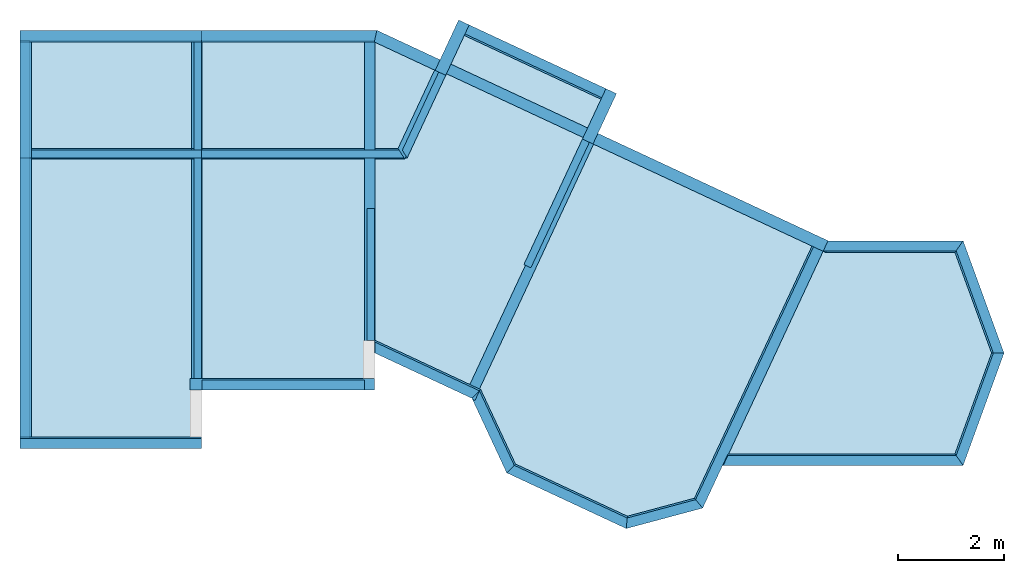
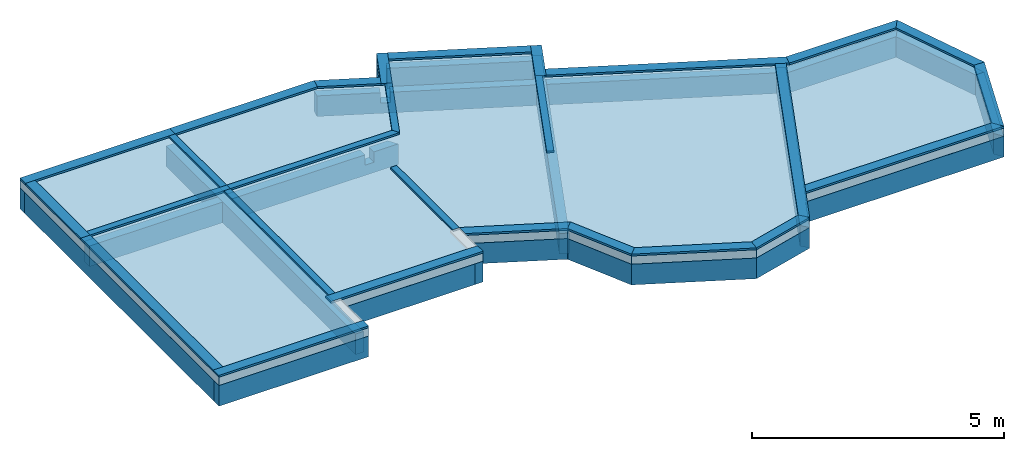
# One storey, part 1 of 2: 47 members, 1 footing.
"""IFC2X3 building model written with IfcOpenShell, lengths in metres."""

from ifc_helpers import new_model, si_unit, direction, frame, origin_with_axes, place, context, subcontext, project, spatial, faceted_brep, material, element, save


model = new_model("IFC2X3")

# Units and contexts
model_context = context("Model", 3, precision=1e-06, world=origin_with_axes(), true_north=direction((0.0, 1.0, 0.0)))
body_context = subcontext(model_context, "Body", "Model", "MODEL_VIEW")
ifc_project = project(units=[si_unit("LENGTHUNIT", "METRE"), si_unit("AREAUNIT", "SQUARE_METRE"), si_unit("VOLUMEUNIT", "CUBIC_METRE"), si_unit("PLANEANGLEUNIT", "RADIAN")], contexts=[model_context])

# Site, building, storey
site_placement = place(None, origin_with_axes())
site = spatial("IfcSite", under=ifc_project, at=site_placement, CompositionType="ELEMENT")
building_placement = place(site_placement, origin_with_axes())
building = spatial("IfcBuilding", under=site, at=building_placement, Name="Building 1", CompositionType="ELEMENT")
storey_placement = place(building_placement, origin_with_axes())
storey = spatial("IfcBuildingStorey", under=building, at=storey_placement, Name="Dalle", CompositionType="ELEMENT", Elevation=0.0)

# Footing
ifc_material_1 = material(Name="Béton")
footing_placement = place(storey_placement, frame((9.2890823, -1.4985603, -0.1), z_axis=(0.0, 0.0, -1.0), x_axis=(0.0, 1.0, 0.0)))
element("IfcFooting", 1, at=footing_placement, inside=storey, material=ifc_material_1, Name="Dalle", PredefinedType="NOTDEFINED", context=body_context, shape_type="Brep", body=[
    faceted_brep([(5.4263402, 8.5061933, 0.1), (3.3083402, 9.2770823, 0.1), (1.1903403, 8.5061934, 0.1), (1.1903403, 3.9704804, 0.1), (0.3860308, 3.5954247, 0.1), (0.0, 2.1547381, 0.1), (1.0513212, -0.0998274, 0.1), (2.4555247, -0.7546183, 0.1), (3.3128146, -2.5930823, 0.1), (2.6113884, -2.5930823, 0.1), (2.6113884, -5.8530823, 0.1), (1.5105603, -5.8530823, 0.1), (1.5105603, -9.2770823, 0.1), (9.3945603, -9.2770823, 0.1), (9.3945603, -2.54794, 0.1), (8.8387572, -1.3560162, 0.1), (9.5893775, -1.0059963, 0.1), (8.2014991, 1.9703185, 0.1), (7.4508788, 1.6202986, 0.1), (5.4263402, 5.9619355, 0.1), (5.4263402, 8.5061933, -0.1), (3.3083402, 9.2770823, -0.1), (5.4263402, 5.9619355, -0.1), (7.4508788, 1.6202986, -0.1), (8.2014991, 1.9703185, -0.1), (9.5893775, -1.0059963, -0.1), (8.8387572, -1.3560162, -0.1), (9.3945603, -2.54794, -0.1), (9.3945603, -9.2770823, -0.1), (1.5105603, -9.2770823, -0.1), (1.5105603, -5.8530823, -0.1), (2.6113884, -5.8530823, -0.1), (2.6113884, -2.5930823, -0.1), (3.3128146, -2.5930823, -0.1), (2.4555247, -0.7546183, -0.1), (1.0513212, -0.0998274, -0.1), (0.0, 2.1547381, -0.1), (0.3860308, 3.5954247, -0.1), (1.1903403, 3.9704804, -0.1), (1.1903403, 8.5061934, -0.1)], [[[0, 1, 2, 3, 4, 5, 6, 7, 8, 9, 10, 11, 12, 13, 14, 15, 16, 17, 18, 19]], [[20, 21, 1, 0]], [[20, 22, 23, 24, 25, 26, 27, 28, 29, 30, 31, 32, 33, 34, 35, 36, 37, 38, 39, 21]], [[22, 20, 0, 19]], [[23, 22, 19, 18]], [[24, 23, 18, 17]], [[24, 17, 16, 25]], [[21, 39, 2, 1]], [[39, 38, 3, 2]], [[37, 36, 5, 4]], [[38, 37, 4, 3]], [[6, 5, 36, 35]], [[7, 6, 35, 34]], [[8, 7, 34, 33]], [[9, 8, 33, 32]], [[30, 29, 12, 11]], [[31, 30, 11, 10]], [[32, 31, 10, 9]], [[29, 28, 13, 12]], [[14, 13, 28, 27]], [[26, 25, 16, 15]], [[27, 26, 15, 14]]]),
])

# Members
ifc_material_2 = material(Name="NH II")
member_1_placement = place(storey_placement, frame((17.7069445, 3.89563, -0.45), z_axis=(0.0, 0.0, 1.0), x_axis=(0.3420201, -0.9396926, 0.0)))
element("IfcMember", 2, at=member_1_placement, inside=storey, material=ifc_material_2, Name="Enrayure", context=body_context, shape_type="Brep", body=[
    faceted_brep([(0.0, 0.094, 0.25), (2.2539286, 0.094, 0.25), (2.2539286, 0.094, -0.25), (0.0, 0.094, -0.25), (0.131639, -0.094, -0.25), (0.131639, -0.094, 0.25), (2.1855021, -0.094, -0.25), (2.1855021, -0.094, 0.25)], [[[0, 1, 2, 3]], [[0, 3, 4, 5]], [[3, 2, 6, 4]], [[1, 0, 5, 7]], [[5, 4, 6, 7]], [[2, 1, 7, 6]]]),
])
ifc_material_3 = material(Name="Epicéa C24 Traité")
member_2_placement = place(storey_placement, frame((11.4153503, -1.3923085, 0.0225), z_axis=(0.258819, -0.9659258, 0.0), x_axis=(0.9659258, 0.258819, 0.0)))
element("IfcMember", 3, at=member_2_placement, inside=storey, material=ifc_material_3, Name="Lisse basse traitée", context=body_context, shape_type="Brep", body=[
    faceted_brep([(0.0, 0.0225, 0.11), (0.0800735, 0.0225, -0.11), (0.0800735, -0.0225, -0.11), (0.0, -0.0225, 0.11), (1.3889208, 0.0225, -0.11), (1.3889208, -0.0225, -0.11), (1.4915085, 0.0225, 0.11), (1.4915085, -0.0225, 0.11)], [[[0, 1, 2, 3]], [[2, 1, 4, 5]], [[1, 0, 6, 4]], [[6, 7, 5, 4]], [[3, 2, 5, 7]], [[6, 0, 3, 7]]]),
])
member_3_placement = place(storey_placement, frame((11.159707, 6.7494267, 0.0225), z_axis=(0.9063078, -0.4226183, 0.0), x_axis=(-0.4226183, -0.9063078, 0.0)))
element("IfcMember", 4, at=member_3_placement, inside=storey, material=ifc_material_3, Name="Lisse basse traitée", context=body_context, shape_type="Brep", body=[
    faceted_brep([(0.0, -0.0225, -0.11), (0.0, -0.0225, 0.11), (0.0, 0.0225, 0.11), (0.0, 0.0225, -0.11), (1.0482178, 0.0225, 0.11), (1.0482178, -0.0225, 0.11), (1.0482178, -0.0225, -0.11), (1.0482178, 0.0225, -0.11)], [[[0, 1, 2, 3]], [[4, 5, 6, 7]], [[5, 1, 0, 6]], [[6, 0, 3, 7]], [[7, 3, 2, 4]], [[1, 5, 4, 2]]]),
])
member_4_placement = place(storey_placement, frame((6.6078191, 1.1128254, -0.45), z_axis=(0.0, 0.0, 1.0), x_axis=(2.66e-05, 1.0, 0.0)))
element("IfcMember", 5, at=member_4_placement, inside=storey, material=ifc_material_2, Name="Enrayure", context=body_context, shape_type="Brep", body=[
    faceted_brep([(5e-06, -0.0881808, -0.25), (0.7014311, -0.0881622, -0.25), (0.7014311, -0.0881622, 0.25), (5e-06, -0.0881808, 0.25), (0.6959114, -0.1, -0.25), (0.6959114, -0.1, 0.25), (6.5911992, -0.1, 0.25), (6.5951746, -0.0914743, 0.25), (6.5951746, 0.1, 0.25), (0.0, 0.1, 0.25), (0.0, 0.1, -0.25), (4.3558948, -0.1, -0.25), (4.3558948, -0.1, 0.0), (4.5558948, -0.1, 0.0), (4.5558948, -0.1, -0.25), (6.5911992, -0.1, -0.25), (4.3558895, 0.1, -0.25), (6.5951746, -0.0914743, -0.25), (6.5951746, 0.1, -0.25), (4.5558895, 0.1, -0.25), (4.5558895, 0.1, 0.0), (4.3558895, 0.1, 0.0)], [[[0, 1, 2, 3]], [[1, 4, 5, 2]], [[3, 2, 5, 6, 7, 8, 9]], [[3, 9, 10, 0]], [[5, 4, 11, 12, 13, 14, 15, 6]], [[1, 0, 10, 16, 11, 4]], [[15, 17, 7, 6]], [[7, 17, 18, 8]], [[17, 15, 14, 19, 18]], [[10, 9, 8, 18, 19, 20, 21, 16]], [[21, 12, 11, 16]], [[13, 20, 19, 14]], [[21, 20, 13, 12]]]),
])
member_5_placement = place(storey_placement, frame((8.6336698, 1.0078012, -0.45), z_axis=(0.0, 0.0, 1.0), x_axis=(-0.9063078, 0.4226183, 0.0)))
element("IfcMember", 6, at=member_5_placement, inside=storey, material=ifc_material_2, Name="Enrayure", context=body_context, shape_type="Brep", body=[
    faceted_brep([(2.0838856, 0.088, -0.25), (0.0684264, 0.088, -0.25), (0.0684264, 0.088, 0.25), (2.0838856, 0.088, 0.25), (0.0541254, 0.1, -0.25), (0.0541254, 0.1, 0.25), (2.1715454, -0.1, 0.25), (2.1715454, -0.1, -0.25), (0.0, 0.1, 0.25), (0.0, -0.1, 0.25), (0.0, 0.1, -0.25), (0.0, -0.1, -0.25)], [[[0, 1, 2, 3]], [[1, 4, 5, 2]], [[0, 3, 6, 7]], [[3, 2, 5, 8, 9, 6]], [[5, 4, 10, 8]], [[1, 0, 7, 11, 10, 4]], [[8, 10, 11, 9]], [[6, 9, 11, 7]]]),
])
member_6_placement = place(storey_placement, frame((8.4137458, 7.926172, -0.45), z_axis=(0.0, 0.0, 1.0), x_axis=(0.9063078, -0.4226183, 0.0)))
element("IfcMember", 7, at=member_6_placement, inside=storey, material=ifc_material_2, Name="Enrayure", context=body_context, shape_type="Brep", body=[
    faceted_brep([(0.0, 0.094, -0.25), (0.0, 0.094, 0.25), (2.908, 0.094, 0.25), (2.908, 0.094, -0.25), (0.0, -0.094, 0.25), (2.908, -0.094, 0.25), (0.0, -0.094, -0.25), (2.908, -0.094, -0.25)], [[[0, 1, 2, 3]], [[2, 1, 4, 5]], [[1, 0, 6, 4]], [[3, 2, 5, 7]], [[0, 3, 7, 6]], [[5, 4, 6, 7]]]),
])
member_7_placement = place(storey_placement, frame((15.1604166, 3.8343421, -0.45), z_axis=(0.0, 0.0, 1.0), x_axis=(1.0, 0.0, 0.0)))
element("IfcMember", 8, at=member_7_placement, inside=storey, material=ifc_material_2, Name="Enrayure", context=body_context, shape_type="Brep", body=[
    faceted_brep([(2.634859, 0.0934378, -0.25), (0.0906012, 0.0934378, -0.25), (0.0906012, 0.0934378, 0.25), (2.634859, 0.0934378, 0.25), (0.0881901, 0.0945622, -0.25), (0.0881901, 0.0945622, 0.25), (2.50322, -0.0945622, 0.25), (2.50322, -0.0945622, -0.25), (0.0, -0.0945622, 0.25), (0.0, -0.0945622, -0.25)], [[[0, 1, 2, 3]], [[1, 4, 5, 2]], [[0, 3, 6, 7]], [[3, 2, 5, 8, 6]], [[5, 4, 9, 8]], [[1, 0, 7, 9, 4]], [[7, 6, 8, 9]]]),
])
member_8_placement = place(storey_placement, frame((0.106, 0.2, -0.45), z_axis=(0.0, 0.0, 1.0), x_axis=(0.0, 1.0, 0.0)))
element("IfcMember", 9, at=member_8_placement, inside=storey, material=ifc_material_2, Name="Enrayure", context=body_context, shape_type="Brep", body=[
    faceted_brep([(0.0, 0.094, -0.25), (0.0, 0.094, 0.25), (7.508, 0.094, 0.25), (7.508, 0.094, -0.25), (7.508, -0.094, 0.25), (7.508, -0.094, -0.25), (0.0, -0.094, 0.25), (0.0, -0.094, -0.25)], [[[0, 1, 2, 3]], [[3, 2, 4, 5]], [[2, 1, 6, 4]], [[1, 0, 7, 6]], [[0, 3, 5, 7]], [[4, 6, 7, 5]]]),
])
member_9_placement = place(storey_placement, frame((6.696, 1.2228281, 0.0225), z_axis=(0.0, -1.0, 0.0), x_axis=(-1.0, 0.0, 0.0)))
element("IfcMember", 10, at=member_9_placement, inside=storey, material=ifc_material_3, Name="Lisse basse traitée", context=body_context, shape_type="Brep", body=[
    faceted_brep([(0.0, -0.0225, 0.11), (3.48, -0.0225, 0.11), (3.48, 0.0225, 0.11), (0.0, 0.0225, 0.11), (0.0, 0.0225, -0.11), (0.0, -0.0225, -0.11), (3.48, 0.0225, -0.11), (3.48, -0.0225, -0.11)], [[[0, 1, 2, 3]], [[4, 5, 0, 3]], [[3, 2, 6, 4]], [[4, 6, 7, 5]], [[5, 7, 1, 0]], [[1, 7, 6, 2]]]),
])
member_10_placement = place(storey_placement, frame((15.248733, 3.8074738, 0.0225), z_axis=(0.4226183, 0.9063078, 0.0), x_axis=(-0.9063078, 0.4226183, 0.0)))
element("IfcMember", 11, at=member_10_placement, inside=storey, material=ifc_material_3, Name="Lisse basse traitée", context=body_context, shape_type="Brep", body=[
    faceted_brep([(0.0487728, -0.0225, 0.11), (0.0487728, 0.0225, 0.11), (0.0, 0.0225, -0.11), (0.0, -0.0225, -0.11), (4.8392391, 0.0225, 0.11), (4.8392391, 0.0225, -0.11), (4.8392391, -0.0225, 0.11), (4.8392391, -0.0225, -0.11)], [[[0, 1, 2, 3]], [[2, 1, 4, 5]], [[1, 0, 6, 4]], [[7, 5, 4, 6]], [[0, 3, 7, 6]], [[3, 2, 5, 7]]]),
])
member_11_placement = place(storey_placement, frame((8.3827799, 8.0443291, 0.0225), z_axis=(0.9063078, -0.4226183, 0.0), x_axis=(-0.4226183, -0.9063078, 0.0)))
element("IfcMember", 12, at=member_11_placement, inside=storey, material=ifc_material_3, Name="Lisse basse traitée", context=body_context, shape_type="Brep", body=[
    faceted_brep([(0.0, -0.0225, -0.11), (0.0, -0.0225, 0.11), (0.0, 0.0225, 0.11), (0.0, 0.0225, -0.11), (1.0482178, 0.0225, 0.11), (1.0482178, -0.0225, 0.11), (1.0482178, -0.0225, -0.11), (1.0482178, 0.0225, -0.11)], [[[0, 1, 2, 3]], [[4, 5, 6, 7]], [[5, 1, 0, 6]], [[6, 0, 3, 7]], [[7, 3, 2, 4]], [[1, 5, 4, 2]]]),
])
member_12_placement = place(storey_placement, frame((12.860178, -1.0217325, -0.45), z_axis=(0.0, 0.0, 1.0), x_axis=(-0.9659258, -0.258819, 0.0)))
element("IfcMember", 13, at=member_12_placement, inside=storey, material=ifc_material_2, Name="Enrayure", context=body_context, shape_type="Brep", body=[
    faceted_brep([(1.4915085, 0.094, -0.25), (0.0, 0.094, -0.25), (0.0, 0.094, 0.25), (1.4915085, 0.094, 0.25), (1.4230821, -0.094, 0.25), (1.4230821, -0.094, -0.25), (0.0876658, -0.094, 0.25), (0.0876658, -0.094, -0.25)], [[[0, 1, 2, 3]], [[0, 3, 4, 5]], [[3, 2, 6, 4]], [[2, 1, 7, 6]], [[6, 7, 5, 4]], [[1, 0, 5, 7]]]),
])
member_13_placement = place(storey_placement, frame((6.7039519, 7.8162449, -0.45), z_axis=(0.0, 0.0, 1.0), x_axis=(0.9063078, -0.4226183, 0.0)))
element("IfcMember", 14, at=member_13_placement, inside=storey, material=ifc_material_2, Name="Enrayure", context=body_context, shape_type="Brep", body=[
    faceted_brep([(9.1869483, 0.088, -0.25), (4.5991424, 0.088, -0.25), (4.5991424, 0.088, 0.0), (4.6111424, 0.088, 0.0), (4.6111424, 0.088, 0.25), (9.1869483, 0.088, 0.25), (4.5991424, 0.1, -0.25), (4.5991424, 0.1, 0.0), (4.6111424, -0.1, 0.25), (9.1869483, -0.1, 0.25), (4.6111424, -0.1, 0.0), (4.4111424, 0.1, 0.0), (4.4111424, -0.1, 0.0), (1.3031424, 0.088, 0.0), (1.3151423, 0.088, 0.0), (1.3151423, 0.088, -0.25), (0.0, 0.088, -0.25), (0.0, 0.088, 0.25), (1.3031424, 0.088, 0.25), (1.3151423, 0.1, 0.0), (1.3151423, 0.1, -0.25), (1.3031424, -0.1, 0.0), (1.5031424, -0.1, 0.0), (1.5031424, 0.1, 0.0), (1.3031424, -0.1, 0.25), (0.0416786, -0.1, 0.25), (0.0416786, -0.1, -0.25), (1.5031424, 0.1, 0.25), (4.4111424, 0.1, 0.25), (9.1869483, -0.1, -0.25), (4.4111424, -0.1, 0.25), (1.5031424, -0.1, 0.25)], [[[0, 1, 2, 3, 4, 5]], [[1, 6, 7, 2]], [[5, 4, 8, 9]], [[4, 3, 10, 8]], [[3, 2, 7, 11, 12, 10]], [[13, 14, 15, 16, 17, 18]], [[14, 19, 20, 15]], [[19, 14, 13, 21, 22, 23]], [[13, 18, 24, 21]], [[18, 17, 25, 24]], [[17, 16, 26, 25]], [[7, 6, 20, 19, 23, 27, 28, 11]], [[25, 26, 29, 9, 8, 10, 12, 30, 31, 22, 21, 24]], [[1, 0, 29, 26, 16, 15, 20, 6]], [[27, 31, 30, 28]], [[23, 22, 31, 27]], [[12, 11, 28, 30]], [[0, 5, 9, 29]]]),
])
member_14_placement = place(storey_placement, frame((7.1771853, 5.5109794, -0.45), z_axis=(0.0, 0.0, 1.0), x_axis=(0.4226182, 0.9063078, 0.0)))
element("IfcMember", 15, at=member_14_placement, inside=storey, material=ifc_material_2, Name="Enrayure", context=body_context, shape_type="Brep", body=[
    faceted_brep([(1.989283, 0.088, 0.0), (1.977283, 0.088, 0.0), (1.977283, 0.088, 0.25), (2.8055009, 0.088, 0.25), (2.8055009, 0.088, -0.25), (1.989283, 0.088, -0.25), (1.977283, 0.1, 0.0), (1.977283, 0.1, 0.25), (1.989283, -0.1, 0.0), (1.789283, -0.1, 0.0), (1.789283, 0.1, 0.0), (1.989283, -0.1, -0.25), (2.8055009, -0.1, -0.25), (2.8055009, -0.1, 0.25), (0.1274141, 0.1, 0.25), (0.0, -0.1, 0.25), (1.789283, 0.1, -0.25), (0.1274141, 0.1, -0.25), (0.0, -0.1, -0.25), (1.789283, -0.1, -0.25)], [[[0, 1, 2, 3, 4, 5]], [[1, 6, 7, 2]], [[6, 1, 0, 8, 9, 10]], [[0, 5, 11, 8]], [[5, 4, 12, 11]], [[4, 3, 13, 12]], [[2, 7, 14, 15, 13, 3]], [[7, 6, 10, 16, 17, 14]], [[15, 14, 17, 18]], [[12, 13, 15, 18, 19, 9, 8, 11]], [[18, 17, 16, 19]], [[10, 9, 19, 16]]]),
])
member_15_placement = place(storey_placement, frame((0.012, 7.802, -0.45), z_axis=(0.0, 0.0, 1.0), x_axis=(1.0, 0.0, 0.0)))
element("IfcMember", 16, at=member_15_placement, inside=storey, material=ifc_material_2, Name="Enrayure", context=body_context, shape_type="Brep", body=[
    faceted_brep([(0.0, -0.094, 0.25), (0.0, 0.094, 0.25), (0.0, 0.094, -0.25), (0.0, -0.094, -0.25), (6.6874637, -0.094, -0.25), (6.6874637, -0.094, 0.25), (6.7291423, 0.094, -0.25), (6.7291423, 0.094, 0.25)], [[[0, 1, 2, 3]], [[0, 3, 4, 5]], [[3, 2, 6, 4]], [[6, 2, 1, 7]], [[6, 7, 5, 4]], [[1, 0, 5, 7]]]),
])
member_16_placement = place(storey_placement, frame((0.012, 0.122, 0.0225), z_axis=(0.0, 1.0, 0.0), x_axis=(1.0, 0.0, 0.0)))
element("IfcMember", 17, at=member_16_placement, inside=storey, material=ifc_material_3, Name="Lisse basse traitée", context=body_context, shape_type="Brep", body=[
    faceted_brep([(3.424, -0.0225, -0.11), (0.0, -0.0225, -0.11), (0.0, 0.0225, -0.11), (3.424, 0.0225, -0.11), (3.424, 0.0225, 0.11), (3.424, -0.0225, 0.11), (0.0, -0.0225, 0.11), (0.0, 0.0225, 0.11)], [[[0, 1, 2, 3]], [[4, 5, 0, 3]], [[6, 7, 2, 1]], [[1, 0, 5, 6]], [[7, 4, 3, 2]], [[6, 5, 4, 7]]]),
])
member_17_placement = place(storey_placement, frame((18.4778335, 1.8419298, -0.45), z_axis=(0.0, 0.0, 1.0), x_axis=(-0.3420201, -0.9396926, 0.0)))
element("IfcMember", 18, at=member_17_placement, inside=storey, material=ifc_material_2, Name="Enrayure", context=body_context, shape_type="Brep", body=[
    faceted_brep([(2.2539285, 0.094, -0.25), (0.0, 0.094, -0.25), (0.0, 0.094, 0.25), (2.2539285, 0.094, 0.25), (2.1222893, -0.094, 0.25), (2.1222893, -0.094, -0.25), (0.0684264, -0.094, 0.25), (0.0684264, -0.094, -0.25)], [[[0, 1, 2, 3]], [[0, 3, 4, 5]], [[3, 2, 6, 4]], [[2, 1, 7, 6]], [[6, 7, 5, 4]], [[1, 0, 5, 7]]]),
])
member_18_placement = place(storey_placement, frame((8.5715715, 1.1470959, -0.45), z_axis=(0.0, 0.0, 1.0), x_axis=(0.4226183, 0.9063078, 0.0)))
element("IfcMember", 19, at=member_18_placement, inside=storey, material=ifc_material_2, Name="Enrayure", context=body_context, shape_type="Brep", body=[
    faceted_brep([(5.3430115, -0.1, 0.0), (5.3430115, -0.088, 0.0), (5.3430115, -0.088, 0.25), (5.3430115, -0.1, 0.25), (5.3550115, -0.088, 0.0), (5.3550115, -0.088, -0.25), (6.1712294, -0.088, -0.25), (6.1712294, -0.088, 0.25), (0.0, -0.1, 0.25), (0.0, -0.1, -0.25), (5.1550115, -0.1, -0.25), (5.1550115, -0.1, 0.0), (6.1712294, 0.1, 0.25), (0.0, 0.1, 0.25), (6.1712294, 0.1, -0.25), (5.3550115, 0.1, -0.25), (5.3550115, 0.1, 0.0), (5.1550115, 0.1, 0.0), (5.1550115, 0.1, -0.25), (0.0, 0.1, -0.25)], [[[0, 1, 2, 3]], [[1, 4, 5, 6, 7, 2]], [[0, 3, 8, 9, 10, 11]], [[3, 2, 7, 12, 13, 8]], [[7, 6, 14, 12]], [[12, 14, 15, 16, 17, 18, 19, 13]], [[6, 5, 15, 14]], [[18, 10, 9, 19]], [[5, 4, 16, 15]], [[17, 11, 10, 18]], [[1, 0, 11, 17, 16, 4]], [[13, 19, 9, 8]]]),
])
member_19_placement = place(storey_placement, frame((9.2744478, -0.407513, -0.45), z_axis=(0.0, 0.0, 1.0), x_axis=(-0.4226183, 0.9063078, 0.0)))
element("IfcMember", 20, at=member_19_placement, inside=storey, material=ifc_material_2, Name="Enrayure", context=body_context, shape_type="Brep", body=[
    faceted_brep([(1.5306985, 0.094, -0.25), (0.0, 0.094, -0.25), (0.0, 0.094, 0.25), (1.5306985, 0.094, 0.25), (1.489236, 0.0592089, 0.25), (1.489236, 0.0592089, -0.25), (0.0684264, -0.094, 0.25), (1.6177936, -0.094, 0.25), (0.0684264, -0.094, -0.25), (1.6177936, -0.094, -0.25)], [[[0, 1, 2, 3]], [[0, 3, 4, 5]], [[3, 2, 6, 7, 4]], [[2, 1, 8, 6]], [[6, 8, 9, 7]], [[1, 0, 5, 9, 8]], [[5, 4, 7, 9]]]),
])
member_20_placement = place(storey_placement, frame((0.122, 7.676, 0.0225), z_axis=(1.0, 0.0, 0.0), x_axis=(0.0, -1.0, 0.0)))
element("IfcMember", 21, at=member_20_placement, inside=storey, material=ifc_material_3, Name="Lisse basse traitée", context=body_context, shape_type="Brep", body=[
    faceted_brep([(2.1857824, -0.0225, -0.11), (2.1857824, -0.0225, 0.11), (0.0, -0.0225, 0.11), (0.0, -0.0225, -0.11), (2.1857824, 0.0225, 0.11), (0.0, 0.0225, 0.11), (2.1857824, 0.0225, -0.11), (0.0, 0.0225, -0.11)], [[[0, 1, 2, 3]], [[1, 4, 5, 2]], [[4, 6, 7, 5]], [[6, 0, 3, 7]], [[0, 6, 4, 1]], [[3, 2, 5, 7]]]),
])
member_21_placement = place(storey_placement, frame((11.4835465, -1.4133674, -0.45), z_axis=(0.0, 0.0, 1.0), x_axis=(-0.9063078, 0.4226183, 0.0)))
element("IfcMember", 22, at=member_21_placement, inside=storey, material=ifc_material_2, Name="Enrayure", context=body_context, shape_type="Brep", body=[
    faceted_brep([(0.0, 0.094, 0.25), (2.4876379, 0.094, 0.25), (2.4876379, 0.094, -0.25), (0.0, 0.094, -0.25), (0.0684264, -0.094, 0.25), (2.4192114, -0.094, 0.25), (0.0684264, -0.094, -0.25), (2.4192114, -0.094, -0.25)], [[[0, 1, 2, 3]], [[1, 0, 4, 5]], [[0, 3, 6, 4]], [[4, 6, 7, 5]], [[3, 2, 7, 6]], [[2, 1, 5, 7]]]),
])
member_22_placement = place(storey_placement, frame((12.8047519, -1.0753391, -0.45), z_axis=(0.0, 0.0, 1.0), x_axis=(0.4226183, 0.9063078, 0.0)))
element("IfcMember", 23, at=member_22_placement, inside=storey, material=ifc_material_2, Name="Enrayure", context=body_context, shape_type="Brep", body=[
    faceted_brep([(5.5682024, -0.1, 0.25), (5.5682024, -0.1, -0.25), (5.5682024, 0.1, -0.25), (5.5682024, 0.1, 0.25), (0.0876658, 0.1, -0.25), (0.0876658, 0.1, 0.25), (0.893053, -0.1, -0.25), (0.8874573, -0.088, -0.25), (0.0, -0.088, -0.25), (0.893053, -0.1, 0.25), (0.8874573, -0.088, 0.25), (0.0, -0.088, 0.25)], [[[0, 1, 2, 3]], [[3, 2, 4, 5]], [[2, 1, 6, 7, 8, 4]], [[9, 10, 7, 6]], [[10, 11, 8, 7]], [[1, 0, 9, 6]], [[8, 11, 5, 4]], [[0, 3, 5, 11, 10, 9]]]),
])
member_23_placement = place(storey_placement, frame((17.7952758, -0.2142198, -0.45), z_axis=(0.0, 0.0, 1.0), x_axis=(-1.0, -1e-07, 0.0)))
element("IfcMember", 24, at=member_23_placement, inside=storey, material=ifc_material_2, Name="Enrayure", context=body_context, shape_type="Brep", body=[
    faceted_brep([(0.0, 0.094, 0.25), (4.5224726, 0.0939999, 0.25), (4.5224726, 0.0939999, -0.25), (0.0, 0.094, -0.25), (0.1316391, -0.0939999, 0.25), (4.4348068, -0.0939999, 0.25), (0.1316391, -0.0939999, -0.25), (4.4348068, -0.0939999, -0.25)], [[[0, 1, 2, 3]], [[1, 0, 4, 5]], [[0, 3, 6, 4]], [[4, 6, 7, 5]], [[3, 2, 7, 6]], [[2, 1, 5, 7]]]),
])
member_24_placement = place(storey_placement, frame((3.436, 0.106, -0.45), z_axis=(0.0, 0.0, 1.0), x_axis=(-1.0, 0.0, 0.0)))
element("IfcMember", 25, at=member_24_placement, inside=storey, material=ifc_material_2, Name="Enrayure", context=body_context, shape_type="Brep", body=[
    faceted_brep([(0.0, -0.094, 0.25), (0.0, 0.094, 0.25), (0.0, 0.094, -0.25), (0.0, -0.094, -0.25), (3.424, 0.094, 0.25), (3.424, 0.094, -0.25), (3.424, -0.094, -0.25), (3.424, -0.094, 0.25)], [[[0, 1, 2, 3]], [[1, 4, 5, 2]], [[0, 3, 6, 7]], [[3, 2, 5, 6]], [[4, 7, 6, 5]], [[1, 0, 7, 4]]]),
])
member_25_placement = place(storey_placement, frame((3.348, 0.2, -0.45), z_axis=(0.0, 0.0, 1.0), x_axis=(0.0, 1.0, 0.0)))
element("IfcMember", 26, at=member_25_placement, inside=storey, material=ifc_material_2, Name="Enrayure", context=body_context, shape_type="Brep", body=[
    faceted_brep([(0.9128281, -0.1, 0.25), (0.9128281, -0.088, 0.25), (0.9128281, -0.088, -0.25), (0.9128281, -0.1, -0.25), (0.0, -0.088, 0.25), (0.0, -0.088, -0.25), (5.2687176, -0.1, -0.25), (5.2687176, -0.1, 0.0), (5.4687176, -0.1, 0.0), (5.4687176, -0.1, -0.25), (7.508, -0.1, -0.25), (7.508, -0.1, 0.25), (0.0, 0.1, -0.25), (5.2687176, 0.1, -0.25), (5.4687176, 0.1, -0.25), (7.508, 0.1, -0.25), (5.4687176, 0.1, 0.0), (5.2687176, 0.1, 0.0), (0.0, 0.1, 0.25), (7.508, 0.1, 0.25)], [[[0, 1, 2, 3]], [[1, 4, 5, 2]], [[0, 3, 6, 7, 8, 9, 10, 11]], [[3, 2, 5, 12, 13, 6]], [[9, 14, 15, 10]], [[14, 16, 17, 13, 12, 18, 19, 15]], [[8, 16, 14, 9]], [[17, 7, 6, 13]], [[7, 17, 16, 8]], [[15, 19, 11, 10]], [[5, 4, 18, 12]], [[1, 0, 11, 19, 18, 4]]]),
])
member_26_placement = place(storey_placement, frame((6.5078215, 1.2068281, -0.45), z_axis=(0.0, 0.0, 1.0), x_axis=(-1.0, 0.0, 0.0)))
element("IfcMember", 27, at=member_26_placement, inside=storey, material=ifc_material_2, Name="Enrayure", context=body_context, shape_type="Brep", body=[
    faceted_brep([(0.0, 0.094, -0.25), (0.0, 0.094, 0.25), (3.0598215, 0.094, 0.25), (3.0598215, 0.094, -0.25), (3.0598215, -0.094, 0.25), (3.0598215, -0.094, -0.25), (0.0, -0.094, 0.25), (0.0, -0.094, -0.25)], [[[0, 1, 2, 3]], [[3, 2, 4, 5]], [[2, 1, 6, 4]], [[1, 0, 7, 6]], [[0, 3, 5, 7]], [[4, 6, 7, 5]]]),
])
member_27_placement = place(storey_placement, frame((17.6919095, -0.2705978, 0.0225), z_axis=(0.9396926, -0.3420201, 0.0), x_axis=(0.3420201, 0.9396926, 0.0)))
element("IfcMember", 28, at=member_27_placement, inside=storey, material=ifc_material_3, Name="Lisse basse traitée", context=body_context, shape_type="Brep", body=[
    faceted_brep([(0.1540457, -0.0225, -0.11), (0.0, -0.0225, 0.11), (0.0, 0.0225, 0.11), (0.1540457, 0.0225, -0.11), (2.173855, -0.0225, -0.11), (2.2539284, -0.0225, 0.11), (2.2539284, 0.0225, 0.11), (2.173855, 0.0225, -0.11)], [[[0, 1, 2, 3]], [[1, 0, 4, 5]], [[6, 5, 4, 7]], [[6, 2, 1, 5]], [[3, 2, 6, 7]], [[0, 3, 7, 4]]]),
])
member_28_placement = place(storey_placement, frame((3.3635, 5.6352176, 0.0225), z_axis=(-1.0, 0.0, 0.0), x_axis=(0.0, 1.0, 0.0)))
element("IfcMember", 29, at=member_28_placement, inside=storey, material=ifc_material_3, Name="Lisse basse traitée", context=body_context, shape_type="Brep", body=[
    faceted_brep([(0.0, -0.0225, -0.0725), (0.0, -0.0225, 0.0725), (0.0, 0.0225, 0.0725), (0.0, 0.0225, -0.0725), (2.0407824, -0.0225, 0.0725), (2.0407824, 0.0225, 0.0725), (2.0407824, -0.0225, -0.0725), (2.0407824, 0.0225, -0.0725)], [[[0, 1, 2, 3]], [[2, 1, 4, 5]], [[1, 0, 6, 4]], [[0, 3, 7, 6]], [[5, 4, 6, 7]], [[3, 2, 5, 7]]]),
])
member_29_placement = place(storey_placement, frame((6.6235, 2.0514744, 0.0225), z_axis=(-1.0, 0.0, 0.0), x_axis=(0.0, 1.0, 0.0)))
element("IfcMember", 30, at=member_29_placement, inside=storey, material=ifc_material_3, Name="Lisse basse traitée", context=body_context, shape_type="Brep", body=[
    faceted_brep([(0.0, 0.0225, -0.0725), (2.4835256, 0.0225, -0.0725), (2.4835256, -0.0225, -0.0725), (0.0, -0.0225, -0.0725), (2.4835256, 0.0225, 0.0725), (2.4835256, -0.0225, 0.0725), (0.0, -0.0225, 0.0725), (0.0, 0.0225, 0.0725)], [[[0, 1, 2, 3]], [[4, 5, 2, 1]], [[5, 6, 3, 2]], [[7, 4, 1, 0]], [[6, 5, 4, 7]], [[6, 7, 0, 3]]]),
])
member_30_placement = place(storey_placement, frame((6.7411423, 7.786, 0.0225), z_axis=(0.0, 1.0, 0.0), x_axis=(-1.0, 0.0, 0.0)))
element("IfcMember", 31, at=member_30_placement, inside=storey, material=ifc_material_3, Name="Lisse basse traitée", context=body_context, shape_type="Brep", body=[
    faceted_brep([(3.3051424, 0.0225, -0.11), (3.3051424, -0.0225, -0.11), (0.0487728, -0.0225, -0.11), (0.0487728, 0.0225, -0.11), (3.3051424, -0.0225, 0.11), (0.0, -0.0225, 0.11), (3.3051424, 0.0225, 0.11), (0.0, 0.0225, 0.11)], [[[0, 1, 2, 3]], [[1, 4, 5, 2]], [[4, 6, 7, 5]], [[6, 0, 3, 7]], [[0, 6, 4, 1]], [[5, 7, 3, 2]]]),
])
member_31_placement = place(storey_placement, frame((3.436, 5.5627176, 0.0225), z_axis=(0.0, -1.0, 0.0), x_axis=(-1.0, 0.0, 0.0)))
element("IfcMember", 32, at=member_31_placement, inside=storey, material=ifc_material_3, Name="Lisse basse traitée", context=body_context, shape_type="Brep", body=[
    faceted_brep([(0.0, 0.0225, -0.0725), (0.0, 0.0225, 0.0725), (3.204, 0.0225, 0.0725), (3.204, 0.0225, -0.0725), (0.0, -0.0225, 0.0725), (3.204, -0.0225, 0.0725), (0.0, -0.0225, -0.0725), (3.204, -0.0225, -0.0725)], [[[0, 1, 2, 3]], [[1, 4, 5, 2]], [[4, 6, 7, 5]], [[6, 0, 3, 7]], [[0, 6, 4, 1]], [[3, 2, 5, 7]]]),
])
member_32_placement = place(storey_placement, frame((7.9737704, 7.0784729, 0.0225), z_axis=(-0.9063078, 0.4226183, 0.0), x_axis=(-0.4226183, -0.9063078, 0.0)))
element("IfcMember", 33, at=member_32_placement, inside=storey, material=ifc_material_3, Name="Lisse basse traitée", context=body_context, shape_type="Brep", body=[
    faceted_brep([(1.6262634, -0.0225, 0.0725), (1.7186385, -0.0225, -0.0725), (1.7186385, 0.0225, -0.0725), (1.6262634, 0.0225, 0.0725), (0.0, -0.0225, 0.0725), (0.0, -0.0225, -0.0725), (0.0, 0.0225, 0.0725), (0.0, 0.0225, -0.0725)], [[[0, 1, 2, 3]], [[1, 0, 4, 5]], [[0, 3, 6, 4]], [[3, 2, 7, 6]], [[7, 2, 1, 5]], [[7, 5, 4, 6]]]),
])
member_33_placement = place(storey_placement, frame((9.5794139, 3.4492099, 0.0225), z_axis=(-0.9063078, 0.4226183, 0.0), x_axis=(0.4226183, 0.9063078, 0.0)))
element("IfcMember", 34, at=member_33_placement, inside=storey, material=ifc_material_3, Name="Lisse basse traitée", context=body_context, shape_type="Brep", body=[
    faceted_brep([(0.0, 0.0225, -0.0725), (2.6106551, 0.0225, -0.0725), (2.6106551, -0.0225, -0.0725), (0.0, -0.0225, -0.0725), (2.6106551, 0.0225, 0.0725), (2.6106551, -0.0225, 0.0725), (0.0, -0.0225, 0.0725), (0.0, 0.0225, 0.0725)], [[[0, 1, 2, 3]], [[4, 5, 2, 1]], [[5, 6, 3, 2]], [[7, 4, 1, 0]], [[6, 5, 4, 7]], [[6, 7, 0, 3]]]),
])
member_34_placement = place(storey_placement, frame((13.2595627, -0.19822, 0.0225), z_axis=(0.0, -1.0, 0.0), x_axis=(1.0, 0.0, 0.0)))
element("IfcMember", 35, at=member_34_placement, inside=storey, material=ifc_material_3, Name="Lisse basse traitée", context=body_context, shape_type="Brep", body=[
    faceted_brep([(0.0, 0.0225, 0.11), (0.1025877, 0.0225, -0.11), (0.1025877, -0.0225, -0.11), (0.0, -0.0225, 0.11), (4.3816674, 0.0225, -0.11), (4.3816674, -0.0225, -0.11), (4.535713, 0.0225, 0.11), (4.535713, -0.0225, 0.11)], [[[0, 1, 2, 3]], [[2, 1, 4, 5]], [[1, 0, 6, 4]], [[0, 3, 7, 6]], [[3, 2, 5, 7]], [[6, 7, 5, 4]]]),
])
member_35_placement = place(storey_placement, frame((11.0135251, 6.6962209, 0.0225), z_axis=(-0.4226183, -0.9063078, 0.0), x_axis=(-0.9063078, 0.4226183, 0.0)))
element("IfcMember", 36, at=member_35_placement, inside=storey, material=ifc_material_3, Name="Lisse basse traitée", context=body_context, shape_type="Brep", body=[
    faceted_brep([(0.0, 0.0225, -0.11), (2.844, 0.0225, -0.11), (2.844, -0.0225, -0.11), (0.0, -0.0225, -0.11), (0.0, 0.0225, 0.11), (2.844, 0.0225, 0.11), (0.0, -0.0225, 0.11), (2.844, -0.0225, 0.11)], [[[0, 1, 2, 3]], [[4, 5, 1, 0]], [[6, 7, 5, 4]], [[3, 2, 7, 6]], [[7, 2, 1, 5]], [[3, 6, 4, 0]]]),
])
member_36_placement = place(storey_placement, frame((7.3131498, 5.5627176, 0.0225), z_axis=(0.0, 1.0, 0.0), x_axis=(-1.0, 0.0, 0.0)))
element("IfcMember", 37, at=member_36_placement, inside=storey, material=ifc_material_3, Name="Lisse basse traitée", context=body_context, shape_type="Brep", body=[
    faceted_brep([(3.8771498, 0.0225, 0.0725), (3.8771498, 0.0225, -0.0725), (0.0, 0.0225, -0.0725), (0.0923753, 0.0225, 0.0725), (3.8771498, -0.0225, -0.0725), (0.0, -0.0225, -0.0725), (3.8771498, -0.0225, 0.0725), (0.0923753, -0.0225, 0.0725)], [[[0, 1, 2, 3]], [[1, 4, 5, 2]], [[4, 6, 7, 5]], [[6, 0, 3, 7]], [[0, 6, 4, 1]], [[3, 2, 5, 7]]]),
])
member_37_placement = place(storey_placement, frame((0.2, 5.5687176, -0.45), z_axis=(0.0, 0.0, 1.0), x_axis=(1.0, 0.0, 0.0)))
element("IfcMember", 38, at=member_37_placement, inside=storey, material=ifc_material_2, Name="Enrayure", context=body_context, shape_type="Brep", body=[
    faceted_brep([(3.048, -0.1, 0.25), (3.048, 0.1, 0.25), (0.0, 0.1, 0.25), (0.0, -0.1, 0.25), (3.248, 0.1, 0.25), (3.248, -0.1, 0.25), (6.3079351, -0.1, 0.25), (6.3079404, 0.1, 0.25), (3.248, 0.1, 0.0), (6.3079404, 0.1, 0.0), (6.5079404, 0.1, 0.0), (6.5079404, 0.1, 0.25), (6.9404021, 0.1, 0.25), (6.9404021, 0.1, -0.25), (0.0, 0.1, -0.25), (3.048, 0.1, 0.0), (3.248, -0.1, 0.0), (3.048, -0.1, 0.0), (0.0, -0.1, -0.25), (7.0678161, -0.1, -0.25), (7.0678161, -0.1, 0.25), (6.5079351, -0.1, 0.25), (6.5079351, -0.1, 0.0), (6.3079351, -0.1, 0.0)], [[[0, 1, 2, 3]], [[4, 5, 6, 7]], [[8, 4, 7, 9, 10, 11, 12, 13, 14, 2, 1, 15]], [[5, 16, 17, 0, 3, 18, 19, 20, 21, 22, 23, 6]], [[17, 15, 1, 0]], [[8, 16, 5, 4]], [[17, 16, 8, 15]], [[11, 21, 20, 12]], [[10, 22, 21, 11]], [[23, 9, 7, 6]], [[9, 23, 22, 10]], [[19, 13, 12, 20]], [[13, 19, 18, 14]], [[2, 14, 18, 3]]]),
])
member_38_placement = place(storey_placement, frame((18.4627984, 1.7721576, 0.0225), z_axis=(0.9396926, 0.3420201, 0.0), x_axis=(-0.3420201, 0.9396926, 0.0)))
element("IfcMember", 39, at=member_38_placement, inside=storey, material=ifc_material_3, Name="Lisse basse traitée", context=body_context, shape_type="Brep", body=[
    faceted_brep([(0.0800735, -0.0225, -0.11), (0.0, -0.0225, 0.11), (0.0, 0.0225, 0.11), (0.0800735, 0.0225, -0.11), (2.0998829, -0.0225, -0.11), (2.2539286, -0.0225, 0.11), (2.2539286, 0.0225, 0.11), (2.0998829, 0.0225, -0.11)], [[[0, 1, 2, 3]], [[1, 0, 4, 5]], [[6, 5, 4, 7]], [[6, 2, 1, 5]], [[3, 2, 6, 7]], [[0, 3, 7, 4]]]),
])
member_39_placement = place(storey_placement, frame((12.7848131, -1.0660415, 0.0225), z_axis=(0.9063078, -0.4226183, 0.0), x_axis=(0.4226183, 0.9063078, 0.0)))
element("IfcMember", 40, at=member_39_placement, inside=storey, material=ifc_material_3, Name="Lisse basse traitée", context=body_context, shape_type="Brep", body=[
    faceted_brep([(0.0, -0.0225, 0.11), (0.0, 0.0225, 0.11), (0.1025877, 0.0225, -0.11), (0.1025877, -0.0225, -0.11), (5.3482024, 0.0225, 0.11), (5.3482024, 0.0225, -0.11), (5.3482024, -0.0225, 0.11), (5.3482024, -0.0225, -0.11)], [[[0, 1, 2, 3]], [[2, 1, 4, 5]], [[4, 1, 0, 6]], [[7, 5, 4, 6]], [[0, 3, 7, 6]], [[3, 2, 5, 7]]]),
])
member_40_placement = place(storey_placement, frame((9.2357429, -0.3475453, 0.0225), z_axis=(-0.4226183, -0.9063078, 0.0), x_axis=(0.9063078, -0.4226183, 0.0)))
element("IfcMember", 41, at=member_40_placement, inside=storey, material=ifc_material_3, Name="Lisse basse traitée", context=body_context, shape_type="Brep", body=[
    faceted_brep([(0.0800735, -0.0225, -0.11), (0.0, -0.0225, 0.11), (0.0, 0.0225, 0.11), (0.0800735, 0.0225, -0.11), (2.4075644, -0.0225, -0.11), (2.4876379, -0.0225, 0.11), (2.4876379, 0.0225, 0.11), (2.4075644, 0.0225, -0.11)], [[[0, 1, 2, 3]], [[1, 0, 4, 5]], [[6, 5, 4, 7]], [[1, 5, 6, 2]], [[3, 2, 6, 7]], [[0, 3, 7, 4]]]),
])
member_41_placement = place(storey_placement, frame((0.122, 5.4902176, 0.0225), z_axis=(1.0, 0.0, 0.0), x_axis=(0.0, -1.0, 0.0)))
element("IfcMember", 42, at=member_41_placement, inside=storey, material=ifc_material_3, Name="Lisse basse traitée", context=body_context, shape_type="Brep", body=[
    faceted_brep([(0.0, 0.0225, -0.11), (0.0, 0.0225, 0.11), (5.2582176, 0.0225, 0.11), (5.2582176, 0.0225, -0.11), (0.0, -0.0225, 0.11), (5.2582176, -0.0225, 0.11), (0.0, -0.0225, -0.11), (5.2582176, -0.0225, -0.11)], [[[0, 1, 2, 3]], [[1, 4, 5, 2]], [[4, 6, 7, 5]], [[6, 0, 3, 7]], [[0, 6, 4, 1]], [[5, 7, 3, 2]]]),
])
member_42_placement = place(storey_placement, frame((17.7952756, 3.8177799, 0.0225), z_axis=(0.0, 1.0, 0.0), x_axis=(-1.0, 0.0, 0.0)))
element("IfcMember", 43, at=member_42_placement, inside=storey, material=ifc_material_3, Name="Lisse basse traitée", context=body_context, shape_type="Brep", body=[
    faceted_brep([(0.0, -0.0225, 0.11), (0.0, 0.0225, 0.11), (0.1540457, 0.0225, -0.11), (0.1540457, -0.0225, -0.11), (2.5442578, 0.0225, 0.11), (2.5930307, 0.0225, -0.11), (2.5442578, -0.0225, 0.11), (2.5930307, -0.0225, -0.11)], [[[0, 1, 2, 3]], [[2, 1, 4, 5]], [[5, 4, 6, 7]], [[6, 4, 1, 0]], [[0, 3, 7, 6]], [[3, 2, 5, 7]]]),
])
member_43_placement = place(storey_placement, frame((7.886578, 7.240503, 0.0225), z_axis=(0.4226183, 0.9063078, 0.0), x_axis=(-0.9063078, 0.4226183, 0.0)))
element("IfcMember", 44, at=member_43_placement, inside=storey, material=ifc_material_3, Name="Lisse basse traitée", context=body_context, shape_type="Brep", body=[
    faceted_brep([(1.3151423, 0.0225, 0.11), (1.3151423, -0.0225, 0.11), (1.2663695, -0.0225, -0.11), (1.2663695, 0.0225, -0.11), (0.0, -0.0225, 0.11), (0.0, -0.0225, -0.11), (0.0, 0.0225, 0.11), (0.0, 0.0225, -0.11)], [[[0, 1, 2, 3]], [[2, 1, 4, 5]], [[0, 6, 4, 1]], [[0, 3, 7, 6]], [[3, 2, 5, 7]], [[7, 5, 4, 6]]]),
])
member_44_placement = place(storey_placement, frame((6.6516274, 1.9563171, 0.0225), z_axis=(-0.4226183, -0.9063078, 0.0), x_axis=(0.9063078, -0.4226183, 0.0)))
element("IfcMember", 45, at=member_44_placement, inside=storey, material=ifc_material_3, Name="Lisse basse traitée", context=body_context, shape_type="Brep", body=[
    faceted_brep([(0.0, 0.0225, -0.1049944), (0.0107344, 0.0225, -0.11), (0.0107344, -0.0225, -0.11), (0.0, -0.0225, -0.1049944), (2.2088476, 0.0225, -0.11), (2.2088476, -0.0225, -0.11), (0.1002536, 0.0225, 0.11), (2.1287742, 0.0225, 0.11), (2.1287742, -0.0225, 0.11), (0.1002536, -0.0225, 0.11)], [[[0, 1, 2, 3]], [[2, 1, 4, 5]], [[1, 0, 6, 7, 4]], [[4, 7, 8, 5]], [[8, 7, 6, 9]], [[0, 3, 9, 6]], [[3, 2, 5, 8, 9]]]),
])
member_45_placement = place(storey_placement, frame((8.6003174, 1.0760236, 0.0225), z_axis=(-0.9063078, -0.4226183, 0.0), x_axis=(0.4226183, -0.9063078, 0.0)))
element("IfcMember", 46, at=member_45_placement, inside=storey, material=ifc_material_3, Name="Lisse basse traitée", context=body_context, shape_type="Brep", body=[
    faceted_brep([(0.0800735, 0.0225, 0.11), (0.0, 0.0225, -0.11), (0.0, -0.0225, -0.11), (0.0800735, -0.0225, 0.11), (1.5493671, 0.0225, -0.11), (1.5493671, -0.0225, -0.11), (1.6294406, 0.0225, 0.11), (1.6294406, -0.0225, 0.11)], [[[0, 1, 2, 3]], [[2, 1, 4, 5]], [[1, 0, 6, 4]], [[4, 6, 7, 5]], [[0, 3, 7, 6]], [[3, 2, 5, 7]]]),
])
member_46_placement = place(storey_placement, frame((3.436, 7.786, 0.0225), z_axis=(0.0, -1.0, 0.0), x_axis=(-1.0, 0.0, 0.0)))
element("IfcMember", 47, at=member_46_placement, inside=storey, material=ifc_material_3, Name="Lisse basse traitée", context=body_context, shape_type="Brep", body=[
    faceted_brep([(0.0, -0.0225, -0.11), (0.0, 0.0225, -0.11), (3.424, 0.0225, -0.11), (3.424, -0.0225, -0.11), (0.0, 0.0225, 0.11), (3.424, 0.0225, 0.11), (0.0, -0.0225, 0.11), (3.424, -0.0225, 0.11)], [[[0, 1, 2, 3]], [[1, 4, 5, 2]], [[4, 6, 7, 5]], [[5, 7, 3, 2]], [[6, 0, 3, 7]], [[0, 6, 4, 1]]]),
])
member_47_placement = place(storey_placement, frame((3.3635, 1.3328281, 0.0225), z_axis=(-1.0, 0.0, 0.0), x_axis=(0.0, 1.0, 0.0)))
element("IfcMember", 48, at=member_47_placement, inside=storey, material=ifc_material_3, Name="Lisse basse traitée", context=body_context, shape_type="Brep", body=[
    faceted_brep([(4.1573895, -0.0225, -0.0725), (4.1573895, -0.0225, 0.0725), (0.0, -0.0225, 0.0725), (0.0, -0.0225, -0.0725), (4.1573895, 0.0225, 0.0725), (0.0, 0.0225, 0.0725), (4.1573895, 0.0225, -0.0725), (0.0, 0.0225, -0.0725)], [[[0, 1, 2, 3]], [[1, 4, 5, 2]], [[4, 6, 7, 5]], [[6, 0, 3, 7]], [[0, 6, 4, 1]], [[2, 5, 7, 3]]]),
])

save(model, "model.ifc")
